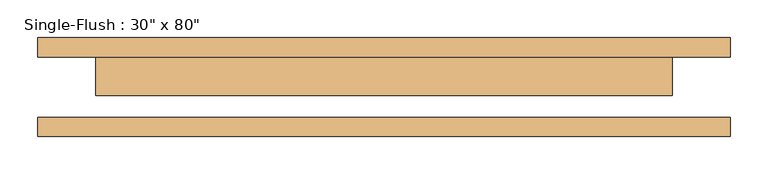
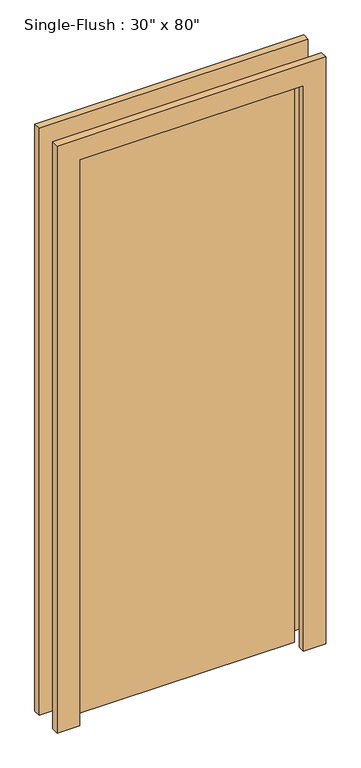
"""IFC4 building model written with IfcOpenShell, lengths in millimetres: door geometry."""

from ifc_helpers import new_model, si_unit, frame, origin, origin_with_axes, place, context, project, spatial, polyline, outline, extrude, source, transform, mapped, element, save


def door_1f0cfce1(model_context):
    return source(origin(), model_context, "Body", "SweptSolid", [
        extrude(outline(polyline([(2108.2, -457.2), (0.0, -457.2), (0.0, -381.0), (2032.0, -381.0), (2032.0, 381.0), (0.0, 381.0), (0.0, 457.2), (2108.2, 457.2), (2108.2, -457.2)])), frame((0.0, 40.0, 0.0), z_axis=(0.0, 1.0, 0.0), x_axis=(0.0, 0.0, 1.0)), (0.0, 0.0, 1.0), 25.4),
        extrude(outline(polyline([(2108.2, 457.2), (2108.2, -457.2), (0.0, -457.2), (0.0, -381.0), (2032.0, -381.0), (2032.0, 381.0), (0.0, 381.0), (0.0, 457.2), (2108.2, 457.2)])), frame((0.0, -65.4, 0.0), z_axis=(0.0, 1.0, 0.0), x_axis=(0.0, 0.0, 1.0)), (0.0, 0.0, 1.0), 25.4),
        extrude(outline(polyline([(381.0, -10.8), (-381.0, -10.8), (-381.0, 40.0), (381.0, 40.0), (381.0, -10.8)])), origin_with_axes(), (0.0, 0.0, 1.0), 2032.0),
    ])


if __name__ == "__main__":
    model = new_model("IFC4")
    model_context = context("Model", 3, world=origin())
    ifc_project = project(units=[si_unit("LENGTHUNIT", "METRE", prefix="MILLI")], contexts=[model_context])
    site = spatial("IfcSite", under=ifc_project)
    building = spatial("IfcBuilding", under=site)
    placement = place(None, origin())
    door_shape = door_1f0cfce1(model_context)
    element("IfcDoor", 1, ObjectType="Single-Flush : 30\" x 80\"", at=placement, inside=building, context=model_context, shape_type="MappedRepresentation", body=[
        mapped(door_shape, transform((0.0, 0.0, 0.0), x_axis=(1.0, 0.0, 0.0), y_axis=(0.0, 1.0, 0.0), z_axis=(0.0, 0.0, 1.0))),
    ])
    save(model, "model.ifc")
